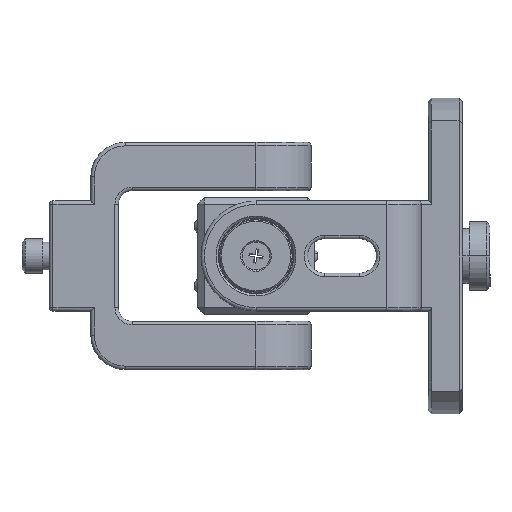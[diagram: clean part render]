
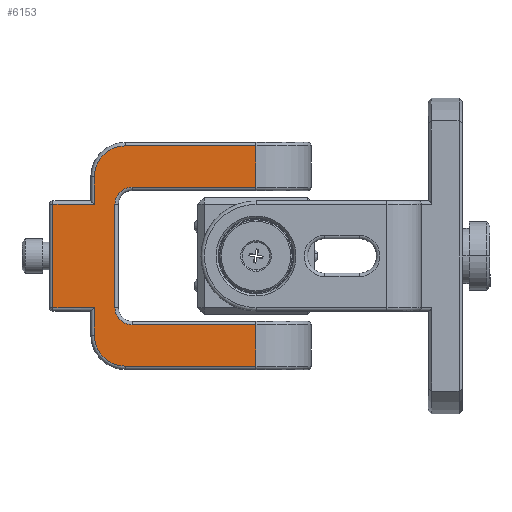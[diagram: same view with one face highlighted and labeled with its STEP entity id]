
A CAD part, front view. The second image highlights one B-rep face of the part: STEP entity #6153.
In plain terms, the highlighted planar face has unit normal (0, -1, 0).
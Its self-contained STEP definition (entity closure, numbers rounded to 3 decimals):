
#31 = EDGE_CURVE ( 'NONE', #6690, #9402, #10759, .T. ) ;
#51 = EDGE_CURVE ( 'NONE', #582, #66, #8946, .T. ) ;
#66 = VERTEX_POINT ( 'NONE', #3701 ) ;
#94 = CARTESIAN_POINT ( 'NONE',  ( 6.5, -16., -5. ) ) ;
#138 = DIRECTION ( 'NONE',  ( 1., 0., 0. ) ) ;
#231 = VERTEX_POINT ( 'NONE', #11036 ) ;
#377 = VECTOR ( 'NONE', #2053, 1000. ) ;
#400 = CARTESIAN_POINT ( 'NONE',  ( 0.5, -16., -33. ) ) ;
#582 = VERTEX_POINT ( 'NONE', #8509 ) ;
#799 = EDGE_CURVE ( 'NONE', #4585, #10386, #7172, .T. ) ;
#871 = DIRECTION ( 'NONE',  ( -1., 0., 0. ) ) ;
#952 = CARTESIAN_POINT ( 'NONE',  ( 30., -16., -32.5 ) ) ;
#982 = CARTESIAN_POINT ( 'NONE',  ( 30., -16., -9. ) ) ;
#1077 = CARTESIAN_POINT ( 'NONE',  ( 9.5, -16., -33. ) ) ;
#1277 = VERTEX_POINT ( 'NONE', #8197 ) ;
#1498 = CIRCLE ( 'NONE', #2778, 2.5 ) ;
#1538 = LINE ( 'NONE', #5190, #3599 ) ;
#1690 = ORIENTED_EDGE ( 'NONE', *, *, #7063, .T. ) ;
#1696 = AXIS2_PLACEMENT_3D ( 'NONE', #5595, #2005, #6451 ) ;
#1784 = CARTESIAN_POINT ( 'NONE',  ( 30., -16., -6.5 ) ) ;
#1786 = VECTOR ( 'NONE', #138, 1000. ) ;
#1881 = CARTESIAN_POINT ( 'NONE',  ( 30., -16., -33. ) ) ;
#1976 = EDGE_CURVE ( 'NONE', #8934, #6690, #3479, .T. ) ;
#1997 = VERTEX_POINT ( 'NONE', #6162 ) ;
#2005 = DIRECTION ( 'NONE',  ( 0., -1., 0. ) ) ;
#2047 = FACE_OUTER_BOUND ( 'NONE', #3217, .T. ) ;
#2053 = DIRECTION ( 'NONE',  ( 0., 0., 1. ) ) ;
#2058 = CIRCLE ( 'NONE', #1696, 4.5 ) ;
#2070 = ORIENTED_EDGE ( 'NONE', *, *, #6855, .T. ) ;
#2112 = ORIENTED_EDGE ( 'NONE', *, *, #10470, .T. ) ;
#2118 = CARTESIAN_POINT ( 'NONE',  ( 11., -16., -28. ) ) ;
#2270 = DIRECTION ( 'NONE',  ( -1., 0., 0. ) ) ;
#2514 = EDGE_CURVE ( 'NONE', #3887, #6163, #3738, .T. ) ;
#2590 = DIRECTION ( 'NONE',  ( 0., 0., -1. ) ) ;
#2623 = AXIS2_PLACEMENT_3D ( 'NONE', #2118, #7360, #3931 ) ;
#2758 = LINE ( 'NONE', #11240, #7608 ) ;
#2778 = AXIS2_PLACEMENT_3D ( 'NONE', #9989, #3889, #2929 ) ;
#2784 = DIRECTION ( 'NONE',  ( 1., 0., 0. ) ) ;
#2795 = ORIENTED_EDGE ( 'NONE', *, *, #2514, .T. ) ;
#2890 = VERTEX_POINT ( 'NONE', #94 ) ;
#2929 = DIRECTION ( 'NONE',  ( 1., 0., 0. ) ) ;
#2961 = DIRECTION ( 'NONE',  ( 0., 0., -1. ) ) ;
#3087 = VECTOR ( 'NONE', #7162, 1000. ) ;
#3171 = CARTESIAN_POINT ( 'NONE',  ( 9.5, -16., -24. ) ) ;
#3217 = EDGE_LOOP ( 'NONE', ( #8988, #8125, #7557, #4587, #8242, #9126, #3494, #5265, #9980, #2795, #5594, #7197, #1690, #6507, #2112, #2070 ) ) ;
#3320 = VERTEX_POINT ( 'NONE', #7289 ) ;
#3479 = LINE ( 'NONE', #982, #6176 ) ;
#3494 = ORIENTED_EDGE ( 'NONE', *, *, #51, .T. ) ;
#3513 = EDGE_CURVE ( 'NONE', #1277, #1997, #8365, .T. ) ;
#3546 = CARTESIAN_POINT ( 'NONE',  ( 6.5, -16., -28. ) ) ;
#3599 = VECTOR ( 'NONE', #7816, 1000. ) ;
#3605 = VECTOR ( 'NONE', #2784, 1000. ) ;
#3679 = CIRCLE ( 'NONE', #5511, 2.5 ) ;
#3701 = CARTESIAN_POINT ( 'NONE',  ( 30., -16., -26.5 ) ) ;
#3738 = LINE ( 'NONE', #1077, #7018 ) ;
#3783 = CARTESIAN_POINT ( 'NONE',  ( 30., -16., -26.5 ) ) ;
#3887 = VERTEX_POINT ( 'NONE', #3171 ) ;
#3889 = DIRECTION ( 'NONE',  ( 0., 1., 0. ) ) ;
#3931 = DIRECTION ( 'NONE',  ( 1., 0., 0. ) ) ;
#4108 = EDGE_CURVE ( 'NONE', #66, #3320, #5447, .T. ) ;
#4125 = LINE ( 'NONE', #11180, #5800 ) ;
#4129 = CARTESIAN_POINT ( 'NONE',  ( 0.5, -16., -9. ) ) ;
#4399 = EDGE_CURVE ( 'NONE', #5653, #4585, #4125, .T. ) ;
#4520 = LINE ( 'NONE', #952, #1786 ) ;
#4585 = VERTEX_POINT ( 'NONE', #3546 ) ;
#4587 = ORIENTED_EDGE ( 'NONE', *, *, #4399, .T. ) ;
#4655 = DIRECTION ( 'NONE',  ( 0., 1., 0. ) ) ;
#5190 = CARTESIAN_POINT ( 'NONE',  ( 30., -16., -33. ) ) ;
#5265 = ORIENTED_EDGE ( 'NONE', *, *, #4108, .T. ) ;
#5343 = CARTESIAN_POINT ( 'NONE',  ( 0.5, -16., -24. ) ) ;
#5447 = LINE ( 'NONE', #3783, #3087 ) ;
#5511 = AXIS2_PLACEMENT_3D ( 'NONE', #8626, #7656, #7776 ) ;
#5526 = PLANE ( 'NONE',  #9238 ) ;
#5545 = CARTESIAN_POINT ( 'NONE',  ( 11., -16., -32.5 ) ) ;
#5594 = ORIENTED_EDGE ( 'NONE', *, *, #10022, .T. ) ;
#5595 = CARTESIAN_POINT ( 'NONE',  ( 11., -16., -5. ) ) ;
#5653 = VERTEX_POINT ( 'NONE', #10769 ) ;
#5784 = CARTESIAN_POINT ( 'NONE',  ( 12., -16., -6.5 ) ) ;
#5800 = VECTOR ( 'NONE', #2590, 1000. ) ;
#5876 = VECTOR ( 'NONE', #10387, 1000. ) ;
#5929 = EDGE_CURVE ( 'NONE', #9402, #5653, #9792, .T. ) ;
#6153 = ADVANCED_FACE ( 'NONE', ( #2047 ), #5526, .F. ) ;
#6162 = CARTESIAN_POINT ( 'NONE',  ( 11., -16., -0.5 ) ) ;
#6163 = VERTEX_POINT ( 'NONE', #9034 ) ;
#6176 = VECTOR ( 'NONE', #871, 1000. ) ;
#6451 = DIRECTION ( 'NONE',  ( 1., 0., 0. ) ) ;
#6507 = ORIENTED_EDGE ( 'NONE', *, *, #3513, .T. ) ;
#6690 = VERTEX_POINT ( 'NONE', #4129 ) ;
#6831 = EDGE_CURVE ( 'NONE', #10386, #582, #4520, .T. ) ;
#6855 = EDGE_CURVE ( 'NONE', #2890, #8934, #2758, .T. ) ;
#6927 = DIRECTION ( 'NONE',  ( 0., 0., -1. ) ) ;
#7018 = VECTOR ( 'NONE', #7057, 1000. ) ;
#7057 = DIRECTION ( 'NONE',  ( 0., 0., 1. ) ) ;
#7063 = EDGE_CURVE ( 'NONE', #231, #1277, #1538, .T. ) ;
#7162 = DIRECTION ( 'NONE',  ( -1., 0., 0. ) ) ;
#7172 = CIRCLE ( 'NONE', #2623, 4.5 ) ;
#7197 = ORIENTED_EDGE ( 'NONE', *, *, #10315, .T. ) ;
#7289 = CARTESIAN_POINT ( 'NONE',  ( 12., -16., -26.5 ) ) ;
#7360 = DIRECTION ( 'NONE',  ( 0., -1., 0. ) ) ;
#7444 = VECTOR ( 'NONE', #2270, 1000. ) ;
#7557 = ORIENTED_EDGE ( 'NONE', *, *, #5929, .T. ) ;
#7608 = VECTOR ( 'NONE', #6927, 1000. ) ;
#7656 = DIRECTION ( 'NONE',  ( 0., 1., 0. ) ) ;
#7776 = DIRECTION ( 'NONE',  ( 1., 0., 0. ) ) ;
#7816 = DIRECTION ( 'NONE',  ( 0., 0., 1. ) ) ;
#7856 = VERTEX_POINT ( 'NONE', #5784 ) ;
#8125 = ORIENTED_EDGE ( 'NONE', *, *, #31, .T. ) ;
#8130 = DIRECTION ( 'NONE',  ( 1., 0., 0. ) ) ;
#8197 = CARTESIAN_POINT ( 'NONE',  ( 30., -16., -0.5 ) ) ;
#8242 = ORIENTED_EDGE ( 'NONE', *, *, #799, .T. ) ;
#8365 = LINE ( 'NONE', #10929, #7444 ) ;
#8509 = CARTESIAN_POINT ( 'NONE',  ( 30., -16., -32.5 ) ) ;
#8626 = CARTESIAN_POINT ( 'NONE',  ( 12., -16., -24. ) ) ;
#8934 = VERTEX_POINT ( 'NONE', #10176 ) ;
#8946 = LINE ( 'NONE', #1881, #377 ) ;
#8988 = ORIENTED_EDGE ( 'NONE', *, *, #1976, .T. ) ;
#9034 = CARTESIAN_POINT ( 'NONE',  ( 9.5, -16., -9. ) ) ;
#9126 = ORIENTED_EDGE ( 'NONE', *, *, #6831, .T. ) ;
#9238 = AXIS2_PLACEMENT_3D ( 'NONE', #9901, #4655, #8130 ) ;
#9402 = VERTEX_POINT ( 'NONE', #5343 ) ;
#9582 = LINE ( 'NONE', #1784, #5876 ) ;
#9792 = LINE ( 'NONE', #10480, #3605 ) ;
#9901 = CARTESIAN_POINT ( 'NONE',  ( 30., -16., -33. ) ) ;
#9980 = ORIENTED_EDGE ( 'NONE', *, *, #10103, .T. ) ;
#9989 = CARTESIAN_POINT ( 'NONE',  ( 12., -16., -9. ) ) ;
#10022 = EDGE_CURVE ( 'NONE', #6163, #7856, #1498, .T. ) ;
#10103 = EDGE_CURVE ( 'NONE', #3320, #3887, #3679, .T. ) ;
#10176 = CARTESIAN_POINT ( 'NONE',  ( 6.5, -16., -9. ) ) ;
#10315 = EDGE_CURVE ( 'NONE', #7856, #231, #9582, .T. ) ;
#10386 = VERTEX_POINT ( 'NONE', #5545 ) ;
#10387 = DIRECTION ( 'NONE',  ( 1., 0., 0. ) ) ;
#10470 = EDGE_CURVE ( 'NONE', #1997, #2890, #2058, .T. ) ;
#10480 = CARTESIAN_POINT ( 'NONE',  ( 30., -16., -24. ) ) ;
#10738 = VECTOR ( 'NONE', #2961, 1000. ) ;
#10759 = LINE ( 'NONE', #400, #10738 ) ;
#10769 = CARTESIAN_POINT ( 'NONE',  ( 6.5, -16., -24. ) ) ;
#10929 = CARTESIAN_POINT ( 'NONE',  ( 30., -16., -0.5 ) ) ;
#11036 = CARTESIAN_POINT ( 'NONE',  ( 30., -16., -6.5 ) ) ;
#11180 = CARTESIAN_POINT ( 'NONE',  ( 6.5, -16., -33. ) ) ;
#11240 = CARTESIAN_POINT ( 'NONE',  ( 6.5, -16., -33. ) ) ;
